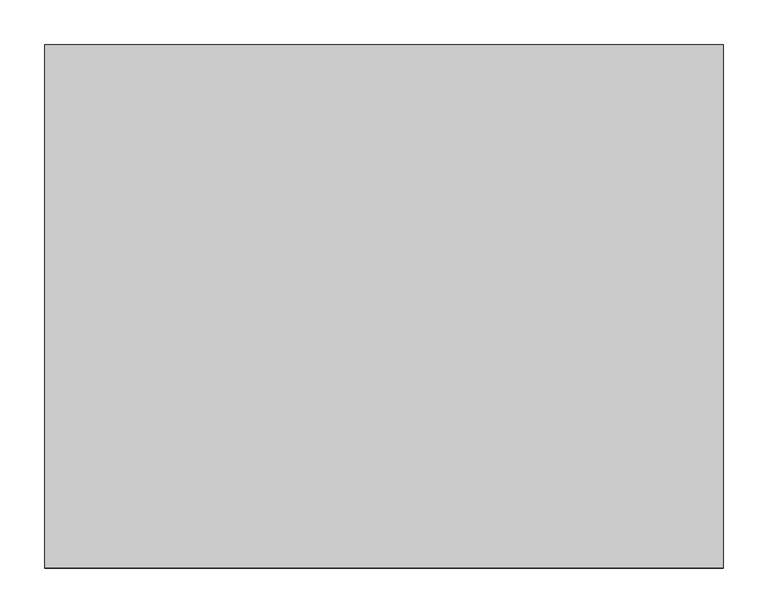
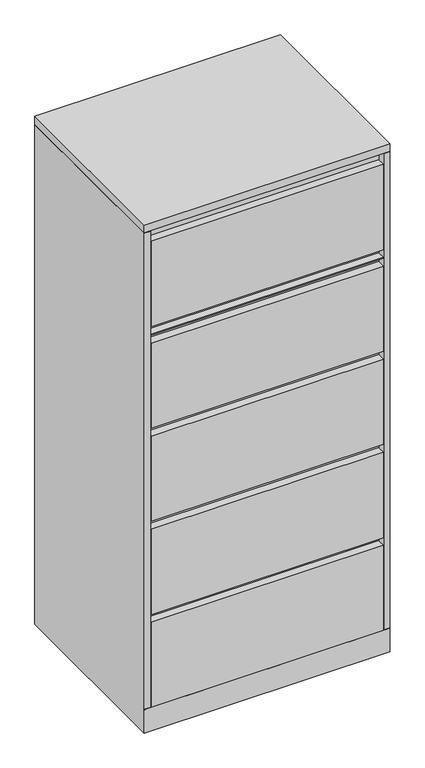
"""IFC4 building model written with IfcOpenShell, lengths in millimetres: furniture geometry, Steelcase - Universal Storage - Lateral File - 5 High - Flush Steel : 4 Drawers/1 Lift Up Door Fixed Shelf - 23 1/8D x 30W."""

from ifc_helpers import new_model, si_unit, frame, origin, place, context, project, spatial, polyline, outline, extrude, faceted_brep, source, transform, mapped, element, save


def furniture_b2902129(model_context):
    return source(origin(), model_context, "Body", "SolidModel", [
        extrude(outline(polyline([(762.0, 587.502), (762.0, 0.0), (0.0, 0.0), (0.0, 587.502), (762.0, 587.502)])), frame((0.0, 0.0, 1638.2999516), z_axis=(0.0, 0.0, 1.0), x_axis=(1.0, 0.0, 0.0)), (0.0, 0.0, 1.0), 25.4),
        faceted_brep([(762.0, 0.0, 0.0), (762.0, 587.502, 0.0), (762.0, 587.502, 1636.7759167), (762.0, 0.0, 1636.7759167), (762.0, 0.0, 77.7239985), (762.0, 1.524, 77.7239985), (762.0, 1.524, 76.2), (762.0, 0.0, 76.2), (0.0, 0.0, 0.0), (0.0, 0.0, 76.2), (0.0, 1.524, 76.2), (0.0, 1.524, 77.7239985), (0.0, 0.0, 77.7239985), (0.0, 0.0, 1636.7759167), (0.0, 587.502, 1636.7759167), (0.0, 587.502, 0.0), (19.304, 0.0, 1636.7759167), (19.304, 25.4000121, 1636.7759167), (742.696, 25.4000121, 1636.7759167), (742.696, 0.0, 1636.7759167), (19.304, 25.4000121, 101.600003), (742.696, 25.4000121, 101.600003), (19.304, 1.524, 101.600003), (742.696, 1.524, 101.600003), (742.696, 1.524, 77.7239985), (19.304, 1.524, 77.7239985), (19.304, 0.0, 77.7239985), (742.696, 0.0, 77.7239985)], [[[0, 1, 2, 3, 4, 5, 6, 7]], [[8, 9, 10, 11, 12, 13, 14, 15]], [[1, 0, 8, 15]], [[2, 1, 15, 14]], [[3, 2, 14, 13, 16, 17, 18, 19]], [[17, 20, 21, 18]], [[20, 22, 23, 21]], [[10, 6, 5, 24, 23, 22, 25, 11]], [[7, 6, 10, 9]], [[0, 7, 9, 8]], [[17, 16, 26, 25, 22, 20]], [[26, 16, 13, 12]], [[25, 26, 12, 11]], [[24, 27, 19, 18, 21, 23]], [[27, 24, 5, 4]], [[19, 27, 4, 3]]]),
        extrude(outline(polyline([(736.6000242, 562.1019992), (736.6000242, 25.4000121), (25.4000008, 25.4000121), (25.4000008, 562.1019992), (736.6000242, 562.1019992)])), frame((0.0, 0.0, 1636.7759167), z_axis=(0.0, 0.0, 1.0), x_axis=(1.0, 0.0, 0.0)), (0.0, 0.0, 1.0), 1.5240349),
        extrude(outline(polyline([(741.1719835, 0.0), (20.8280006, 0.0), (20.8280006, 25.4000121), (741.1719835, 25.4000121), (741.1719835, 0.0)])), frame((0.0, 0.0, 1295.4), z_axis=(0.0, 0.0, 1.0), x_axis=(1.0, 0.0, 0.0)), (0.0, 0.0, 1.0), 3.1749516),
        extrude(outline(polyline([(741.1719835, 0.0), (20.8280006, 0.0), (20.8280006, 25.4000121), (741.1719835, 25.4000121), (741.1719835, 0.0)])), frame((0.0, 0.0, 1323.975), z_axis=(0.0, 0.0, 1.0), x_axis=(1.0, 0.0, 0.0)), (0.0, 0.0, 1.0), 279.4),
        extrude(outline(polyline([(741.1719835, 0.0), (20.8280006, 0.0), (20.8280006, 25.4000121), (741.1719835, 25.4000121), (741.1719835, 0.0)])), frame((0.0, 0.0, 990.6), z_axis=(0.0, 0.0, 1.0), x_axis=(1.0, 0.0, 0.0)), (0.0, 0.0, 1.0), 279.4),
        extrude(outline(polyline([(741.1719835, 0.0), (20.8280006, 0.0), (20.8280006, 25.4000121), (741.1719835, 25.4000121), (741.1719835, 0.0)])), frame((0.0, 0.0, 685.8), z_axis=(0.0, 0.0, 1.0), x_axis=(1.0, 0.0, 0.0)), (0.0, 0.0, 1.0), 279.4),
        extrude(outline(polyline([(741.1719835, 0.0), (20.8280006, 0.0), (20.8280006, 25.4000121), (741.1719835, 25.4000121), (741.1719835, 0.0)])), frame((0.0, 0.0, 381.0), z_axis=(0.0, 0.0, 1.0), x_axis=(1.0, 0.0, 0.0)), (0.0, 0.0, 1.0), 279.4),
        extrude(outline(polyline([(741.1719835, 0.0), (20.8280006, 0.0), (20.8280006, 25.4000121), (741.1719835, 25.4000121), (741.1719835, 0.0)])), frame((0.0, 0.0, 77.7239985), z_axis=(0.0, 0.0, 1.0), x_axis=(1.0, 0.0, 0.0)), (0.0, 0.0, 1.0), 277.8759893),
    ])


if __name__ == "__main__":
    model = new_model("IFC4")
    model_context = context("Model", 3, world=origin())
    ifc_project = project(units=[si_unit("LENGTHUNIT", "METRE", prefix="MILLI")], contexts=[model_context])
    site = spatial("IfcSite", under=ifc_project)
    building = spatial("IfcBuilding", under=site)
    placement = place(None, origin())
    furniture_shape = furniture_b2902129(model_context)
    element("IfcFurniture", 1, ObjectType="Steelcase - Universal Storage - Lateral File - 5 High - Flush Steel : 4 Drawers/1 Lift Up Door Fixed Shelf - 23 1/8D x 30W", at=placement, inside=building, context=model_context, shape_type="MappedRepresentation", body=[
        mapped(furniture_shape, transform((0.0, 0.0, 0.0), x_axis=(1.0, 0.0, 0.0), y_axis=(0.0, 1.0, 0.0), z_axis=(0.0, 0.0, 1.0))),
    ])
    save(model, "model.ifc")
